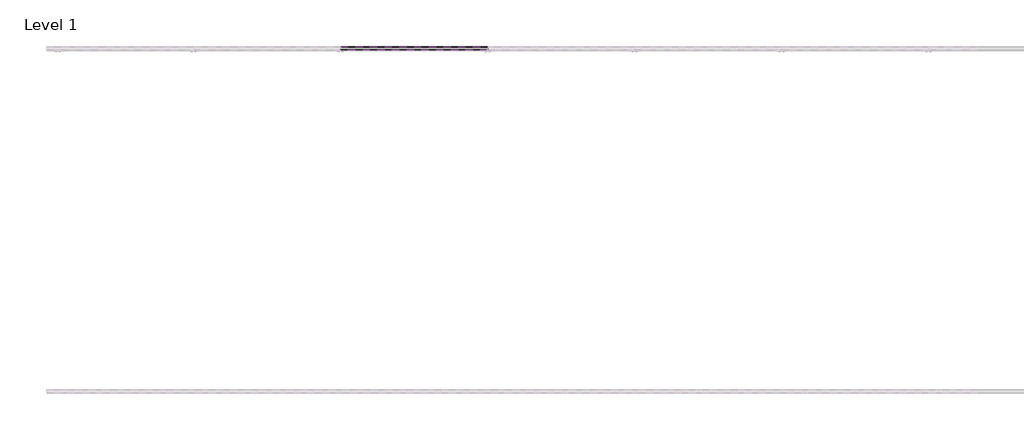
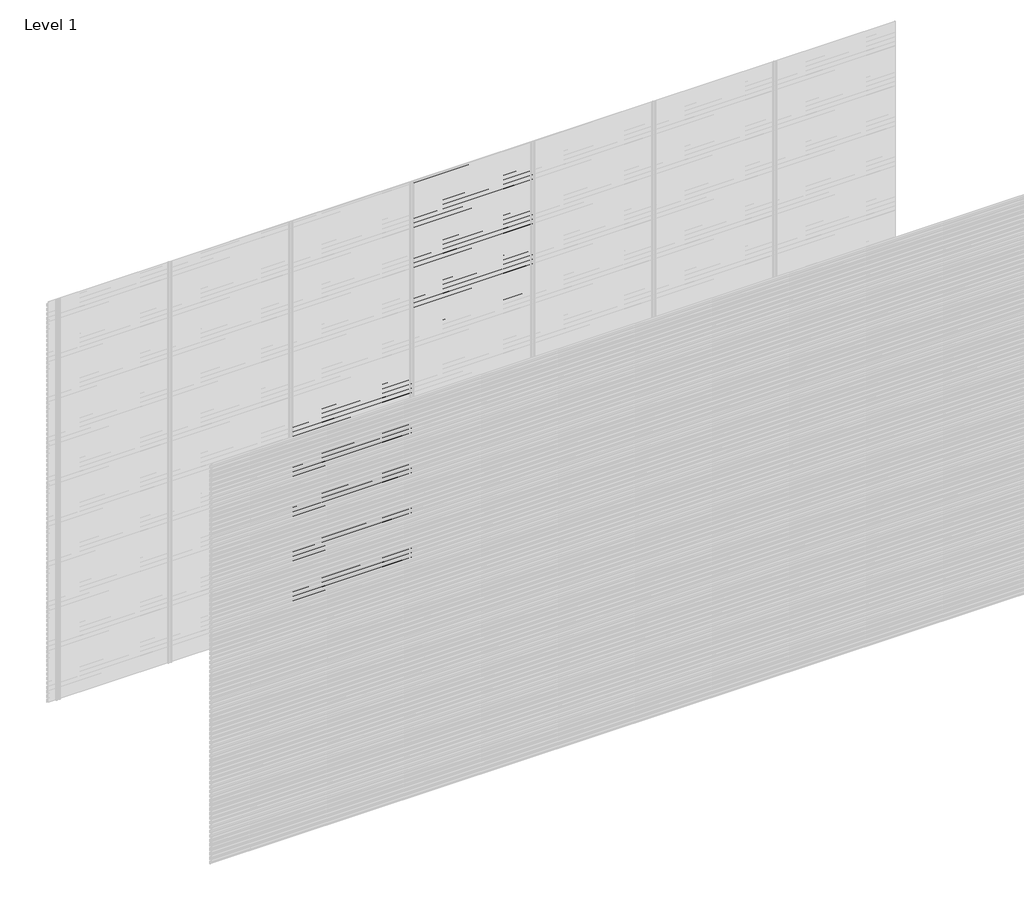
# One storey, part 92 of 96: 82 proxies.
"""IFC4 building model written with IfcOpenShell, lengths in millimetres."""

from ifc_helpers import new_model, si_unit, frame, origin, place, context, project, spatial, polyline, outline, extrude, element, save

model = new_model("IFC4")

# Units and contexts
model_context = context("Model", 3, world=origin())
ifc_project = project(units=[si_unit("LENGTHUNIT", "METRE", prefix="MILLI")], contexts=[model_context])

# Site, building, storey
site = spatial("IfcSite", under=ifc_project)
building = spatial("IfcBuilding", under=site)
storey = spatial("IfcBuildingStorey", under=building, Name="Level 1", Elevation=0.0)

# Proxies
placement = place(None, origin())
element("IfcBuildingElementProxy", 1, Name="Wall Sweeps", at=placement, inside=storey, context=model_context, shape_type="SweptSolid", body=[
    extrude(outline(polyline([(22.4, 1573.1655033), (22.4, 1558.8779188), (17.5885035, 1556.1), (17.5885035, 1557.3701706), (21.15, 1559.4264016), (21.15, 1572.4437382), (2.0, 1583.5000799), (2.0, 1598.4), (3.25, 1598.4), (3.25, 1584.2217609), (22.4, 1573.1655033)])), frame((1714.2857143, 0.0, 0.0), z_axis=(1.0, 0.0, 0.0), x_axis=(0.0, 1.0, 0.0)), (0.0, 0.0, 1.0), 857.1428571),
])
element("IfcBuildingElementProxy", 2, Name="Wall Sweeps", at=placement, inside=storey, context=model_context, shape_type="SweptSolid", body=[
    extrude(outline(polyline([(22.4, 1539.8655033), (22.4, 1525.5779188), (17.5885035, 1522.8), (17.5885035, 1524.0701706), (21.15, 1526.1264016), (21.15, 1539.1437382), (2.0, 1550.2000799), (2.0, 1565.1), (3.25, 1565.1), (3.25, 1550.9217609), (22.4, 1539.8655033)])), frame((1714.2857143, 0.0, 0.0), z_axis=(1.0, 0.0, 0.0), x_axis=(0.0, 1.0, 0.0)), (0.0, 0.0, 1.0), 857.1428571),
])
element("IfcBuildingElementProxy", 3, Name="Wall Sweeps", at=placement, inside=storey, context=model_context, shape_type="SweptSolid", body=[
    extrude(outline(polyline([(22.4, 1506.5655033), (22.4, 1492.2779188), (17.5885035, 1489.5), (17.5885035, 1490.7701706), (21.15, 1492.8264016), (21.15, 1505.8437382), (2.0, 1516.9000799), (2.0, 1531.8), (3.25, 1531.8), (3.25, 1517.6217609), (22.4, 1506.5655033)])), frame((1714.2857143, 0.0, 0.0), z_axis=(1.0, 0.0, 0.0), x_axis=(0.0, 1.0, 0.0)), (0.0, 0.0, 1.0), 857.1428571),
])
element("IfcBuildingElementProxy", 4, Name="Wall Sweeps", at=placement, inside=storey, context=model_context, shape_type="SweptSolid", body=[
    extrude(outline(polyline([(22.4, 1473.2655033), (22.4, 1458.9779188), (17.5885035, 1456.2), (17.5885035, 1457.4701706), (21.15, 1459.5264016), (21.15, 1472.5437382), (2.0, 1483.6000799), (2.0, 1498.5), (3.25, 1498.5), (3.25, 1484.3217609), (22.4, 1473.2655033)])), frame((1714.2857143, 0.0, 0.0), z_axis=(1.0, 0.0, 0.0), x_axis=(0.0, 1.0, 0.0)), (0.0, 0.0, 1.0), 857.1428571),
])
element("IfcBuildingElementProxy", 5, Name="Wall Sweeps", at=placement, inside=storey, context=model_context, shape_type="SweptSolid", body=[
    extrude(outline(polyline([(22.4, 1439.9655033), (22.4, 1425.6779188), (17.5885035, 1422.9), (17.5885035, 1424.1701706), (21.15, 1426.2264016), (21.15, 1439.2437382), (2.0, 1450.3000799), (2.0, 1465.2), (3.25, 1465.2), (3.25, 1451.0217609), (22.4, 1439.9655033)])), frame((1714.2857143, 0.0, 0.0), z_axis=(1.0, 0.0, 0.0), x_axis=(0.0, 1.0, 0.0)), (0.0, 0.0, 1.0), 857.1428571),
])
element("IfcBuildingElementProxy", 6, Name="Wall Sweeps", at=placement, inside=storey, context=model_context, shape_type="SweptSolid", body=[
    extrude(outline(polyline([(22.4, 1406.6655033), (22.4, 1392.3779188), (17.5885035, 1389.6), (17.5885035, 1390.8701706), (21.15, 1392.9264016), (21.15, 1405.9437382), (2.0, 1417.0000799), (2.0, 1431.9), (3.25, 1431.9), (3.25, 1417.7217609), (22.4, 1406.6655033)])), frame((1714.2857143, 0.0, 0.0), z_axis=(1.0, 0.0, 0.0), x_axis=(0.0, 1.0, 0.0)), (0.0, 0.0, 1.0), 857.1428571),
])
element("IfcBuildingElementProxy", 7, Name="Wall Sweeps", at=placement, inside=storey, context=model_context, shape_type="SweptSolid", body=[
    extrude(outline(polyline([(22.4, 1373.3655033), (22.4, 1359.0779188), (17.5885035, 1356.3), (17.5885035, 1357.5701706), (21.15, 1359.6264016), (21.15, 1372.6437382), (2.0, 1383.7000799), (2.0, 1398.6), (3.25, 1398.6), (3.25, 1384.4217609), (22.4, 1373.3655033)])), frame((1714.2857143, 0.0, 0.0), z_axis=(1.0, 0.0, 0.0), x_axis=(0.0, 1.0, 0.0)), (0.0, 0.0, 1.0), 857.1428571),
])
element("IfcBuildingElementProxy", 8, Name="Wall Sweeps", at=placement, inside=storey, context=model_context, shape_type="SweptSolid", body=[
    extrude(outline(polyline([(22.4, 1340.0655033), (22.4, 1325.7779188), (17.5885035, 1323.0), (17.5885035, 1324.2701706), (21.15, 1326.3264016), (21.15, 1339.3437382), (2.0, 1350.4000799), (2.0, 1365.3), (3.25, 1365.3), (3.25, 1351.1217609), (22.4, 1340.0655033)])), frame((1714.2857143, 0.0, 0.0), z_axis=(1.0, 0.0, 0.0), x_axis=(0.0, 1.0, 0.0)), (0.0, 0.0, 1.0), 857.1428571),
])
element("IfcBuildingElementProxy", 9, Name="Wall Sweeps", at=placement, inside=storey, context=model_context, shape_type="SweptSolid", body=[
    extrude(outline(polyline([(22.4, 1306.7655033), (22.4, 1292.4779188), (17.5885035, 1289.7), (17.5885035, 1290.9701706), (21.15, 1293.0264016), (21.15, 1306.0437382), (2.0, 1317.1000799), (2.0, 1332.0), (3.25, 1332.0), (3.25, 1317.8217609), (22.4, 1306.7655033)])), frame((1714.2857143, 0.0, 0.0), z_axis=(1.0, 0.0, 0.0), x_axis=(0.0, 1.0, 0.0)), (0.0, 0.0, 1.0), 857.1428571),
])
element("IfcBuildingElementProxy", 10, Name="Wall Sweeps", at=placement, inside=storey, context=model_context, shape_type="SweptSolid", body=[
    extrude(outline(polyline([(22.4, 1273.4655033), (22.4, 1259.1779188), (17.5885035, 1256.4), (17.5885035, 1257.6701706), (21.15, 1259.7264016), (21.15, 1272.7437382), (2.0, 1283.8000799), (2.0, 1298.7), (3.25, 1298.7), (3.25, 1284.5217609), (22.4, 1273.4655033)])), frame((1714.2857143, 0.0, 0.0), z_axis=(1.0, 0.0, 0.0), x_axis=(0.0, 1.0, 0.0)), (0.0, 0.0, 1.0), 857.1428571),
])
element("IfcBuildingElementProxy", 11, Name="Wall Sweeps", at=placement, inside=storey, context=model_context, shape_type="SweptSolid", body=[
    extrude(outline(polyline([(22.4, 1240.1655033), (22.4, 1225.8779188), (17.5885035, 1223.1), (17.5885035, 1224.3701706), (21.15, 1226.4264016), (21.15, 1239.4437382), (2.0, 1250.5000799), (2.0, 1265.4), (3.25, 1265.4), (3.25, 1251.2217609), (22.4, 1240.1655033)])), frame((1714.2857143, 0.0, 0.0), z_axis=(1.0, 0.0, 0.0), x_axis=(0.0, 1.0, 0.0)), (0.0, 0.0, 1.0), 857.1428571),
])
element("IfcBuildingElementProxy", 12, Name="Wall Sweeps", at=placement, inside=storey, context=model_context, shape_type="SweptSolid", body=[
    extrude(outline(polyline([(22.4, 1206.8655033), (22.4, 1192.5779188), (17.5885035, 1189.8), (17.5885035, 1191.0701706), (21.15, 1193.1264016), (21.15, 1206.1437382), (2.0, 1217.2000799), (2.0, 1232.1), (3.25, 1232.1), (3.25, 1217.9217609), (22.4, 1206.8655033)])), frame((1714.2857143, 0.0, 0.0), z_axis=(1.0, 0.0, 0.0), x_axis=(0.0, 1.0, 0.0)), (0.0, 0.0, 1.0), 857.1428571),
])
element("IfcBuildingElementProxy", 13, Name="Wall Sweeps", at=placement, inside=storey, context=model_context, shape_type="SweptSolid", body=[
    extrude(outline(polyline([(22.4, 1173.5655033), (22.4, 1159.2779188), (17.5885035, 1156.5), (17.5885035, 1157.7701706), (21.15, 1159.8264016), (21.15, 1172.8437382), (2.0, 1183.9000799), (2.0, 1198.8), (3.25, 1198.8), (3.25, 1184.6217609), (22.4, 1173.5655033)])), frame((1714.2857143, 0.0, 0.0), z_axis=(1.0, 0.0, 0.0), x_axis=(0.0, 1.0, 0.0)), (0.0, 0.0, 1.0), 857.1428571),
])
element("IfcBuildingElementProxy", 14, Name="Wall Sweeps", at=placement, inside=storey, context=model_context, shape_type="SweptSolid", body=[
    extrude(outline(polyline([(22.4, 1140.2655033), (22.4, 1125.9779188), (17.5885035, 1123.2), (17.5885035, 1124.4701706), (21.15, 1126.5264016), (21.15, 1139.5437382), (2.0, 1150.6000799), (2.0, 1165.5), (3.25, 1165.5), (3.25, 1151.3217609), (22.4, 1140.2655033)])), frame((1714.2857143, 0.0, 0.0), z_axis=(1.0, 0.0, 0.0), x_axis=(0.0, 1.0, 0.0)), (0.0, 0.0, 1.0), 857.1428571),
])
element("IfcBuildingElementProxy", 15, Name="Wall Sweeps", at=placement, inside=storey, context=model_context, shape_type="SweptSolid", body=[
    extrude(outline(polyline([(22.4, 1106.9655033), (22.4, 1092.6779188), (17.5885035, 1089.9), (17.5885035, 1091.1701706), (21.15, 1093.2264016), (21.15, 1106.2437382), (2.0, 1117.3000799), (2.0, 1132.2), (3.25, 1132.2), (3.25, 1118.0217609), (22.4, 1106.9655033)])), frame((1714.2857143, 0.0, 0.0), z_axis=(1.0, 0.0, 0.0), x_axis=(0.0, 1.0, 0.0)), (0.0, 0.0, 1.0), 857.1428571),
])
element("IfcBuildingElementProxy", 16, Name="Wall Sweeps", at=placement, inside=storey, context=model_context, shape_type="SweptSolid", body=[
    extrude(outline(polyline([(22.4, 1073.6655033), (22.4, 1059.3779188), (17.5885035, 1056.6), (17.5885035, 1057.8701706), (21.15, 1059.9264016), (21.15, 1072.9437382), (2.0, 1084.0000799), (2.0, 1098.9), (3.25, 1098.9), (3.25, 1084.7217609), (22.4, 1073.6655033)])), frame((1714.2857143, 0.0, 0.0), z_axis=(1.0, 0.0, 0.0), x_axis=(0.0, 1.0, 0.0)), (0.0, 0.0, 1.0), 857.1428571),
])
element("IfcBuildingElementProxy", 17, Name="Wall Sweeps", at=placement, inside=storey, context=model_context, shape_type="SweptSolid", body=[
    extrude(outline(polyline([(22.4, 1040.3655033), (22.4, 1026.0779188), (17.5885035, 1023.3), (17.5885035, 1024.5701706), (21.15, 1026.6264016), (21.15, 1039.6437382), (2.0, 1050.7000799), (2.0, 1065.6), (3.25, 1065.6), (3.25, 1051.4217609), (22.4, 1040.3655033)])), frame((1714.2857143, 0.0, 0.0), z_axis=(1.0, 0.0, 0.0), x_axis=(0.0, 1.0, 0.0)), (0.0, 0.0, 1.0), 857.1428571),
])
element("IfcBuildingElementProxy", 18, Name="Wall Sweeps", at=placement, inside=storey, context=model_context, shape_type="SweptSolid", body=[
    extrude(outline(polyline([(22.4, 1007.0655033), (22.4, 992.7779188), (17.5885035, 990.0), (17.5885035, 991.2701706), (21.15, 993.3264016), (21.15, 1006.3437382), (2.0, 1017.4000799), (2.0, 1032.3), (3.25, 1032.3), (3.25, 1018.1217609), (22.4, 1007.0655033)])), frame((1714.2857143, 0.0, 0.0), z_axis=(1.0, 0.0, 0.0), x_axis=(0.0, 1.0, 0.0)), (0.0, 0.0, 1.0), 857.1428571),
])
element("IfcBuildingElementProxy", 19, Name="Wall Sweeps", at=placement, inside=storey, context=model_context, shape_type="SweptSolid", body=[
    extrude(outline(polyline([(22.4, 973.7655033), (22.4, 959.4779188), (17.5885035, 956.7), (17.5885035, 957.9701706), (21.15, 960.0264016), (21.15, 973.0437382), (2.0, 984.1000799), (2.0, 999.0), (3.25, 999.0), (3.25, 984.8217609), (22.4, 973.7655033)])), frame((1714.2857143, 0.0, 0.0), z_axis=(1.0, 0.0, 0.0), x_axis=(0.0, 1.0, 0.0)), (0.0, 0.0, 1.0), 857.1428571),
])
element("IfcBuildingElementProxy", 20, Name="Wall Sweeps", at=placement, inside=storey, context=model_context, shape_type="SweptSolid", body=[
    extrude(outline(polyline([(22.4, 940.4655033), (22.4, 926.1779188), (17.5885035, 923.4), (17.5885035, 924.6701706), (21.15, 926.7264016), (21.15, 939.7437382), (2.0, 950.8000799), (2.0, 965.7), (3.25, 965.7), (3.25, 951.5217609), (22.4, 940.4655033)])), frame((1714.2857143, 0.0, 0.0), z_axis=(1.0, 0.0, 0.0), x_axis=(0.0, 1.0, 0.0)), (0.0, 0.0, 1.0), 857.1428571),
])
element("IfcBuildingElementProxy", 21, Name="Wall Sweeps", at=placement, inside=storey, context=model_context, shape_type="SweptSolid", body=[
    extrude(outline(polyline([(22.4, 907.1655033), (22.4, 892.8779188), (17.5885035, 890.1), (17.5885035, 891.3701706), (21.15, 893.4264016), (21.15, 906.4437382), (2.0, 917.5000799), (2.0, 932.4), (3.25, 932.4), (3.25, 918.2217609), (22.4, 907.1655033)])), frame((1714.2857143, 0.0, 0.0), z_axis=(1.0, 0.0, 0.0), x_axis=(0.0, 1.0, 0.0)), (0.0, 0.0, 1.0), 857.1428571),
])
element("IfcBuildingElementProxy", 22, Name="Wall Sweeps", at=placement, inside=storey, context=model_context, shape_type="SweptSolid", body=[
    extrude(outline(polyline([(22.4, 873.8655033), (22.4, 859.5779188), (17.5885035, 856.8), (17.5885035, 858.0701706), (21.15, 860.1264016), (21.15, 873.1437382), (2.0, 884.2000799), (2.0, 899.1), (3.25, 899.1), (3.25, 884.9217609), (22.4, 873.8655033)])), frame((1714.2857143, 0.0, 0.0), z_axis=(1.0, 0.0, 0.0), x_axis=(0.0, 1.0, 0.0)), (0.0, 0.0, 1.0), 857.1428571),
])
element("IfcBuildingElementProxy", 23, Name="Wall Sweeps", at=placement, inside=storey, context=model_context, shape_type="SweptSolid", body=[
    extrude(outline(polyline([(22.4, 840.5655033), (22.4, 826.2779188), (17.5885035, 823.5), (17.5885035, 824.7701706), (21.15, 826.8264016), (21.15, 839.8437382), (2.0, 850.9000799), (2.0, 865.8), (3.25, 865.8), (3.25, 851.6217609), (22.4, 840.5655033)])), frame((1714.2857143, 0.0, 0.0), z_axis=(1.0, 0.0, 0.0), x_axis=(0.0, 1.0, 0.0)), (0.0, 0.0, 1.0), 857.1428571),
])
element("IfcBuildingElementProxy", 24, Name="Wall Sweeps", at=placement, inside=storey, context=model_context, shape_type="SweptSolid", body=[
    extrude(outline(polyline([(22.4, 807.2655033), (22.4, 792.9779188), (17.5885035, 790.2), (17.5885035, 791.4701706), (21.15, 793.5264016), (21.15, 806.5437382), (2.0, 817.6000799), (2.0, 832.5), (3.25, 832.5), (3.25, 818.3217609), (22.4, 807.2655033)])), frame((1714.2857143, 0.0, 0.0), z_axis=(1.0, 0.0, 0.0), x_axis=(0.0, 1.0, 0.0)), (0.0, 0.0, 1.0), 857.1428571),
])
element("IfcBuildingElementProxy", 25, Name="Wall Sweeps", at=placement, inside=storey, context=model_context, shape_type="SweptSolid", body=[
    extrude(outline(polyline([(22.4, 773.9655033), (22.4, 759.6779188), (17.5885035, 756.9), (17.5885035, 758.1701706), (21.15, 760.2264016), (21.15, 773.2437382), (2.0, 784.3000799), (2.0, 799.2), (3.25, 799.2), (3.25, 785.0217609), (22.4, 773.9655033)])), frame((1714.2857143, 0.0, 0.0), z_axis=(1.0, 0.0, 0.0), x_axis=(0.0, 1.0, 0.0)), (0.0, 0.0, 1.0), 857.1428571),
])
element("IfcBuildingElementProxy", 26, Name="Wall Sweeps", at=placement, inside=storey, context=model_context, shape_type="SweptSolid", body=[
    extrude(outline(polyline([(22.4, 740.6655033), (22.4, 726.3779188), (17.5885035, 723.6), (17.5885035, 724.8701706), (21.15, 726.9264016), (21.15, 739.9437382), (2.0, 751.0000799), (2.0, 765.9), (3.25, 765.9), (3.25, 751.7217609), (22.4, 740.6655033)])), frame((1714.2857143, 0.0, 0.0), z_axis=(1.0, 0.0, 0.0), x_axis=(0.0, 1.0, 0.0)), (0.0, 0.0, 1.0), 857.1428571),
])
element("IfcBuildingElementProxy", 27, Name="Wall Sweeps", at=placement, inside=storey, context=model_context, shape_type="SweptSolid", body=[
    extrude(outline(polyline([(22.4, 707.3655033), (22.4, 693.0779188), (17.5885035, 690.3), (17.5885035, 691.5701706), (21.15, 693.6264016), (21.15, 706.6437382), (2.0, 717.7000799), (2.0, 732.6), (3.25, 732.6), (3.25, 718.4217609), (22.4, 707.3655033)])), frame((1714.2857143, 0.0, 0.0), z_axis=(1.0, 0.0, 0.0), x_axis=(0.0, 1.0, 0.0)), (0.0, 0.0, 1.0), 857.1428571),
])
element("IfcBuildingElementProxy", 28, Name="Wall Sweeps", at=placement, inside=storey, context=model_context, shape_type="SweptSolid", body=[
    extrude(outline(polyline([(22.4, 674.0655033), (22.4, 659.7779188), (17.5885035, 657.0), (17.5885035, 658.2701706), (21.15, 660.3264016), (21.15, 673.3437382), (2.0, 684.4000799), (2.0, 699.3), (3.25, 699.3), (3.25, 685.1217609), (22.4, 674.0655033)])), frame((1714.2857143, 0.0, 0.0), z_axis=(1.0, 0.0, 0.0), x_axis=(0.0, 1.0, 0.0)), (0.0, 0.0, 1.0), 857.1428571),
])
element("IfcBuildingElementProxy", 29, Name="Wall Sweeps", at=placement, inside=storey, context=model_context, shape_type="SweptSolid", body=[
    extrude(outline(polyline([(22.4, 640.7655033), (22.4, 626.4779188), (17.5885035, 623.7), (17.5885035, 624.9701706), (21.15, 627.0264016), (21.15, 640.0437382), (2.0, 651.1000799), (2.0, 666.0), (3.25, 666.0), (3.25, 651.8217609), (22.4, 640.7655033)])), frame((1714.2857143, 0.0, 0.0), z_axis=(1.0, 0.0, 0.0), x_axis=(0.0, 1.0, 0.0)), (0.0, 0.0, 1.0), 857.1428571),
])
element("IfcBuildingElementProxy", 30, Name="Wall Sweeps", at=placement, inside=storey, context=model_context, shape_type="SweptSolid", body=[
    extrude(outline(polyline([(22.4, 607.4655033), (22.4, 593.1779188), (17.5885035, 590.4), (17.5885035, 591.6701706), (21.15, 593.7264016), (21.15, 606.7437382), (2.0, 617.8000799), (2.0, 632.7), (3.25, 632.7), (3.25, 618.5217609), (22.4, 607.4655033)])), frame((1714.2857143, 0.0, 0.0), z_axis=(1.0, 0.0, 0.0), x_axis=(0.0, 1.0, 0.0)), (0.0, 0.0, 1.0), 857.1428571),
])
element("IfcBuildingElementProxy", 31, Name="Wall Sweeps", at=placement, inside=storey, context=model_context, shape_type="SweptSolid", body=[
    extrude(outline(polyline([(22.4, 574.1655033), (22.4, 559.8779188), (17.5885035, 557.1), (17.5885035, 558.3701706), (21.15, 560.4264016), (21.15, 573.4437382), (2.0, 584.5000799), (2.0, 599.4), (3.25, 599.4), (3.25, 585.2217609), (22.4, 574.1655033)])), frame((1714.2857143, 0.0, 0.0), z_axis=(1.0, 0.0, 0.0), x_axis=(0.0, 1.0, 0.0)), (0.0, 0.0, 1.0), 857.1428571),
])
element("IfcBuildingElementProxy", 32, Name="Wall Sweeps", at=placement, inside=storey, context=model_context, shape_type="SweptSolid", body=[
    extrude(outline(polyline([(22.4, 540.8655033), (22.4, 526.5779188), (17.5885035, 523.8), (17.5885035, 525.0701706), (21.15, 527.1264016), (21.15, 540.1437382), (2.0, 551.2000799), (2.0, 566.1), (3.25, 566.1), (3.25, 551.9217609), (22.4, 540.8655033)])), frame((1714.2857143, 0.0, 0.0), z_axis=(1.0, 0.0, 0.0), x_axis=(0.0, 1.0, 0.0)), (0.0, 0.0, 1.0), 857.1428571),
])
element("IfcBuildingElementProxy", 33, Name="Wall Sweeps", at=placement, inside=storey, context=model_context, shape_type="SweptSolid", body=[
    extrude(outline(polyline([(22.4, 507.5655033), (22.4, 493.2779188), (17.5885035, 490.5), (17.5885035, 491.7701706), (21.15, 493.8264016), (21.15, 506.8437382), (2.0, 517.9000799), (2.0, 532.8), (3.25, 532.8), (3.25, 518.6217609), (22.4, 507.5655033)])), frame((1714.2857143, 0.0, 0.0), z_axis=(1.0, 0.0, 0.0), x_axis=(0.0, 1.0, 0.0)), (0.0, 0.0, 1.0), 857.1428571),
])
element("IfcBuildingElementProxy", 34, Name="Wall Sweeps", at=placement, inside=storey, context=model_context, shape_type="SweptSolid", body=[
    extrude(outline(polyline([(22.4, 474.2655033), (22.4, 459.9779188), (17.5885035, 457.2), (17.5885035, 458.4701706), (21.15, 460.5264016), (21.15, 473.5437382), (2.0, 484.6000799), (2.0, 499.5), (3.25, 499.5), (3.25, 485.3217609), (22.4, 474.2655033)])), frame((1714.2857143, 0.0, 0.0), z_axis=(1.0, 0.0, 0.0), x_axis=(0.0, 1.0, 0.0)), (0.0, 0.0, 1.0), 857.1428571),
])
element("IfcBuildingElementProxy", 35, Name="Wall Sweeps", at=placement, inside=storey, context=model_context, shape_type="SweptSolid", body=[
    extrude(outline(polyline([(22.4, 440.9655033), (22.4, 426.6779188), (17.5885035, 423.9), (17.5885035, 425.1701706), (21.15, 427.2264016), (21.15, 440.2437382), (2.0, 451.3000799), (2.0, 466.2), (3.25, 466.2), (3.25, 452.0217609), (22.4, 440.9655033)])), frame((1714.2857143, 0.0, 0.0), z_axis=(1.0, 0.0, 0.0), x_axis=(0.0, 1.0, 0.0)), (0.0, 0.0, 1.0), 857.1428571),
])
element("IfcBuildingElementProxy", 36, Name="Wall Sweeps", at=placement, inside=storey, context=model_context, shape_type="SweptSolid", body=[
    extrude(outline(polyline([(22.4, 407.6655033), (22.4, 393.3779188), (17.5885035, 390.6), (17.5885035, 391.8701706), (21.15, 393.9264016), (21.15, 406.9437382), (2.0, 418.0000799), (2.0, 432.9), (3.25, 432.9), (3.25, 418.7217609), (22.4, 407.6655033)])), frame((1714.2857143, 0.0, 0.0), z_axis=(1.0, 0.0, 0.0), x_axis=(0.0, 1.0, 0.0)), (0.0, 0.0, 1.0), 857.1428571),
])
element("IfcBuildingElementProxy", 37, Name="Wall Sweeps", at=placement, inside=storey, context=model_context, shape_type="SweptSolid", body=[
    extrude(outline(polyline([(22.4, 374.3655033), (22.4, 360.0779188), (17.5885035, 357.3), (17.5885035, 358.5701706), (21.15, 360.6264016), (21.15, 373.6437382), (2.0, 384.7000799), (2.0, 399.6), (3.25, 399.6), (3.25, 385.4217609), (22.4, 374.3655033)])), frame((1714.2857143, 0.0, 0.0), z_axis=(1.0, 0.0, 0.0), x_axis=(0.0, 1.0, 0.0)), (0.0, 0.0, 1.0), 857.1428571),
])
element("IfcBuildingElementProxy", 38, Name="Wall Sweeps", at=placement, inside=storey, context=model_context, shape_type="SweptSolid", body=[
    extrude(outline(polyline([(22.4, 341.0655033), (22.4, 326.7779188), (17.5885035, 324.0), (17.5885035, 325.2701706), (21.15, 327.3264016), (21.15, 340.3437382), (2.0, 351.4000799), (2.0, 366.3), (3.25, 366.3), (3.25, 352.1217609), (22.4, 341.0655033)])), frame((1714.2857143, 0.0, 0.0), z_axis=(1.0, 0.0, 0.0), x_axis=(0.0, 1.0, 0.0)), (0.0, 0.0, 1.0), 857.1428571),
])
element("IfcBuildingElementProxy", 39, Name="Wall Sweeps", at=placement, inside=storey, context=model_context, shape_type="SweptSolid", body=[
    extrude(outline(polyline([(22.4, 307.7655033), (22.4, 293.4779188), (17.5885035, 290.7), (17.5885035, 291.9701706), (21.15, 294.0264016), (21.15, 307.0437382), (2.0, 318.1000799), (2.0, 333.0), (3.25, 333.0), (3.25, 318.8217609), (22.4, 307.7655033)])), frame((1714.2857143, 0.0, 0.0), z_axis=(1.0, 0.0, 0.0), x_axis=(0.0, 1.0, 0.0)), (0.0, 0.0, 1.0), 857.1428571),
])
element("IfcBuildingElementProxy", 40, Name="Wall Sweeps", at=placement, inside=storey, context=model_context, shape_type="SweptSolid", body=[
    extrude(outline(polyline([(22.4, 274.4655033), (22.4, 260.1779188), (17.5885035, 257.4), (17.5885035, 258.6701706), (21.15, 260.7264016), (21.15, 273.7437382), (2.0, 284.8000799), (2.0, 299.7), (3.25, 299.7), (3.25, 285.5217609), (22.4, 274.4655033)])), frame((1714.2857143, 0.0, 0.0), z_axis=(1.0, 0.0, 0.0), x_axis=(0.0, 1.0, 0.0)), (0.0, 0.0, 1.0), 857.1428571),
])
element("IfcBuildingElementProxy", 41, Name="Wall Sweeps", at=placement, inside=storey, context=model_context, shape_type="SweptSolid", body=[
    extrude(outline(polyline([(22.4, 241.1655033), (22.4, 226.8779188), (17.5885035, 224.1), (17.5885035, 225.3701706), (21.15, 227.4264016), (21.15, 240.4437382), (2.0, 251.5000799), (2.0, 266.4), (3.25, 266.4), (3.25, 252.2217609), (22.4, 241.1655033)])), frame((1714.2857143, 0.0, 0.0), z_axis=(1.0, 0.0, 0.0), x_axis=(0.0, 1.0, 0.0)), (0.0, 0.0, 1.0), 857.1428571),
])
element("IfcBuildingElementProxy", 42, Name="Wall Sweeps", at=placement, inside=storey, context=model_context, shape_type="SweptSolid", body=[
    extrude(outline(polyline([(22.4, 207.8655033), (22.4, 193.5779188), (17.5885035, 190.8), (17.5885035, 192.0701706), (21.15, 194.1264016), (21.15, 207.1437382), (2.0, 218.2000799), (2.0, 233.1), (3.25, 233.1), (3.25, 218.9217609), (22.4, 207.8655033)])), frame((1714.2857143, 0.0, 0.0), z_axis=(1.0, 0.0, 0.0), x_axis=(0.0, 1.0, 0.0)), (0.0, 0.0, 1.0), 857.1428571),
])
element("IfcBuildingElementProxy", 43, Name="Wall Sweeps", at=placement, inside=storey, context=model_context, shape_type="SweptSolid", body=[
    extrude(outline(polyline([(22.4, 174.5655033), (22.4, 160.2779188), (17.5885035, 157.5), (17.5885035, 158.7701706), (21.15, 160.8264016), (21.15, 173.8437382), (2.0, 184.9000799), (2.0, 199.8), (3.25, 199.8), (3.25, 185.6217609), (22.4, 174.5655033)])), frame((1714.2857143, 0.0, 0.0), z_axis=(1.0, 0.0, 0.0), x_axis=(0.0, 1.0, 0.0)), (0.0, 0.0, 1.0), 857.1428571),
])
element("IfcBuildingElementProxy", 44, Name="Wall Sweeps", at=placement, inside=storey, context=model_context, shape_type="SweptSolid", body=[
    extrude(outline(polyline([(22.4, 141.2655033), (22.4, 126.9779188), (17.5885035, 124.2), (17.5885035, 125.4701706), (21.15, 127.5264016), (21.15, 140.5437382), (2.0, 151.6000799), (2.0, 166.5), (3.25, 166.5), (3.25, 152.3217609), (22.4, 141.2655033)])), frame((1714.2857143, 0.0, 0.0), z_axis=(1.0, 0.0, 0.0), x_axis=(0.0, 1.0, 0.0)), (0.0, 0.0, 1.0), 857.1428571),
])
element("IfcBuildingElementProxy", 45, Name="Wall Sweeps", at=placement, inside=storey, context=model_context, shape_type="SweptSolid", body=[
    extrude(outline(polyline([(22.4, 107.9655033), (22.4, 93.6779188), (17.5885035, 90.9), (17.5885035, 92.1701706), (21.15, 94.2264016), (21.15, 107.2437382), (2.0, 118.3000799), (2.0, 133.2), (3.25, 133.2), (3.25, 119.0217609), (22.4, 107.9655033)])), frame((1714.2857143, 0.0, 0.0), z_axis=(1.0, 0.0, 0.0), x_axis=(0.0, 1.0, 0.0)), (0.0, 0.0, 1.0), 857.1428571),
])
element("IfcBuildingElementProxy", 46, Name="Wall Sweeps", at=placement, inside=storey, context=model_context, shape_type="SweptSolid", body=[
    extrude(outline(polyline([(22.4, 74.6655033), (22.4, 60.3779188), (17.5885035, 57.6), (17.5885035, 58.8701706), (21.15, 60.9264016), (21.15, 73.9437382), (2.0, 85.0000799), (2.0, 99.9), (3.25, 99.9), (3.25, 85.7217609), (22.4, 74.6655033)])), frame((1714.2857143, 0.0, 0.0), z_axis=(1.0, 0.0, 0.0), x_axis=(0.0, 1.0, 0.0)), (0.0, 0.0, 1.0), 857.1428571),
])
element("IfcBuildingElementProxy", 47, Name="Wall Sweeps", at=placement, inside=storey, context=model_context, shape_type="SweptSolid", body=[
    extrude(outline(polyline([(22.4, 41.3655033), (22.4, 27.0779188), (17.5885035, 24.3), (17.5885035, 25.5701706), (21.15, 27.6264016), (21.15, 40.6437382), (2.0, 51.7000799), (2.0, 66.6), (3.25, 66.6), (3.25, 52.4217609), (22.4, 41.3655033)])), frame((1714.2857143, 0.0, 0.0), z_axis=(1.0, 0.0, 0.0), x_axis=(0.0, 1.0, 0.0)), (0.0, 0.0, 1.0), 857.1428571),
])
element("IfcBuildingElementProxy", 48, Name="Wall Sweeps", at=placement, inside=storey, context=model_context, shape_type="SweptSolid", body=[
    extrude(outline(polyline([(22.4, 8.0655033), (22.4, -6.2220812), (17.5885035, -9.0), (17.5885035, -7.7298294), (21.15, -5.6735984), (21.15, 7.3437382), (2.0, 18.4000799), (2.0, 33.3), (3.25, 33.3), (3.25, 19.1217609), (22.4, 8.0655033)])), frame((1714.2857143, 0.0, 0.0), z_axis=(1.0, 0.0, 0.0), x_axis=(0.0, 1.0, 0.0)), (0.0, 0.0, 1.0), 857.1428571),
])
element("IfcBuildingElementProxy", 49, Name="Wall Sweeps", at=placement, inside=storey, context=model_context, shape_type="SweptSolid", body=[
    extrude(outline(polyline([(22.4, 2971.7655033), (22.4, 2957.4779188), (17.5885035, 2954.7), (17.5885035, 2955.9701706), (21.15, 2958.0264016), (21.15, 2971.0437382), (2.0, 2982.1000799), (2.0, 2997.0), (3.25, 2997.0), (3.25, 2982.8217609), (22.4, 2971.7655033)])), frame((2571.4285714, 0.0, 0.0), z_axis=(1.0, 0.0, 0.0), x_axis=(0.0, 1.0, 0.0)), (0.0, 0.0, 1.0), 857.1428571),
])
element("IfcBuildingElementProxy", 50, Name="Wall Sweeps", at=placement, inside=storey, context=model_context, shape_type="SweptSolid", body=[
    extrude(outline(polyline([(22.4, 2938.4655033), (22.4, 2924.1779188), (17.5885035, 2921.4), (17.5885035, 2922.6701706), (21.15, 2924.7264016), (21.15, 2937.7437382), (2.0, 2948.8000799), (2.0, 2963.7), (3.25, 2963.7), (3.25, 2949.5217609), (22.4, 2938.4655033)])), frame((2571.4285714, 0.0, 0.0), z_axis=(1.0, 0.0, 0.0), x_axis=(0.0, 1.0, 0.0)), (0.0, 0.0, 1.0), 857.1428571),
])
element("IfcBuildingElementProxy", 51, Name="Wall Sweeps", at=placement, inside=storey, context=model_context, shape_type="SweptSolid", body=[
    extrude(outline(polyline([(22.4, 2905.1655033), (22.4, 2890.8779188), (17.5885035, 2888.1), (17.5885035, 2889.3701706), (21.15, 2891.4264016), (21.15, 2904.4437382), (2.0, 2915.5000799), (2.0, 2930.4), (3.25, 2930.4), (3.25, 2916.2217609), (22.4, 2905.1655033)])), frame((2571.4285714, 0.0, 0.0), z_axis=(1.0, 0.0, 0.0), x_axis=(0.0, 1.0, 0.0)), (0.0, 0.0, 1.0), 857.1428571),
])
element("IfcBuildingElementProxy", 52, Name="Wall Sweeps", at=placement, inside=storey, context=model_context, shape_type="SweptSolid", body=[
    extrude(outline(polyline([(22.4, 2871.8655033), (22.4, 2857.5779188), (17.5885035, 2854.8), (17.5885035, 2856.0701706), (21.15, 2858.1264016), (21.15, 2871.1437382), (2.0, 2882.2000799), (2.0, 2897.1), (3.25, 2897.1), (3.25, 2882.9217609), (22.4, 2871.8655033)])), frame((2571.4285714, 0.0, 0.0), z_axis=(1.0, 0.0, 0.0), x_axis=(0.0, 1.0, 0.0)), (0.0, 0.0, 1.0), 857.1428571),
])
element("IfcBuildingElementProxy", 53, Name="Wall Sweeps", at=placement, inside=storey, context=model_context, shape_type="SweptSolid", body=[
    extrude(outline(polyline([(22.4, 2838.5655033), (22.4, 2824.2779188), (17.5885035, 2821.5), (17.5885035, 2822.7701706), (21.15, 2824.8264016), (21.15, 2837.8437382), (2.0, 2848.9000799), (2.0, 2863.8), (3.25, 2863.8), (3.25, 2849.6217609), (22.4, 2838.5655033)])), frame((2571.4285714, 0.0, 0.0), z_axis=(1.0, 0.0, 0.0), x_axis=(0.0, 1.0, 0.0)), (0.0, 0.0, 1.0), 857.1428571),
])
element("IfcBuildingElementProxy", 54, Name="Wall Sweeps", at=placement, inside=storey, context=model_context, shape_type="SweptSolid", body=[
    extrude(outline(polyline([(22.4, 2805.2655033), (22.4, 2790.9779188), (17.5885035, 2788.2), (17.5885035, 2789.4701706), (21.15, 2791.5264016), (21.15, 2804.5437382), (2.0, 2815.6000799), (2.0, 2830.5), (3.25, 2830.5), (3.25, 2816.3217609), (22.4, 2805.2655033)])), frame((2571.4285714, 0.0, 0.0), z_axis=(1.0, 0.0, 0.0), x_axis=(0.0, 1.0, 0.0)), (0.0, 0.0, 1.0), 857.1428571),
])
element("IfcBuildingElementProxy", 55, Name="Wall Sweeps", at=placement, inside=storey, context=model_context, shape_type="SweptSolid", body=[
    extrude(outline(polyline([(22.4, 2771.9655033), (22.4, 2757.6779188), (17.5885035, 2754.9), (17.5885035, 2756.1701706), (21.15, 2758.2264016), (21.15, 2771.2437382), (2.0, 2782.3000799), (2.0, 2797.2), (3.25, 2797.2), (3.25, 2783.0217609), (22.4, 2771.9655033)])), frame((2571.4285714, 0.0, 0.0), z_axis=(1.0, 0.0, 0.0), x_axis=(0.0, 1.0, 0.0)), (0.0, 0.0, 1.0), 857.1428571),
])
element("IfcBuildingElementProxy", 56, Name="Wall Sweeps", at=placement, inside=storey, context=model_context, shape_type="SweptSolid", body=[
    extrude(outline(polyline([(22.4, 2738.6655033), (22.4, 2724.3779188), (17.5885035, 2721.6), (17.5885035, 2722.8701706), (21.15, 2724.9264016), (21.15, 2737.9437382), (2.0, 2749.0000799), (2.0, 2763.9), (3.25, 2763.9), (3.25, 2749.7217609), (22.4, 2738.6655033)])), frame((2571.4285714, 0.0, 0.0), z_axis=(1.0, 0.0, 0.0), x_axis=(0.0, 1.0, 0.0)), (0.0, 0.0, 1.0), 857.1428571),
])
element("IfcBuildingElementProxy", 57, Name="Wall Sweeps", at=placement, inside=storey, context=model_context, shape_type="SweptSolid", body=[
    extrude(outline(polyline([(22.4, 2705.3655033), (22.4, 2691.0779188), (17.5885035, 2688.3), (17.5885035, 2689.5701706), (21.15, 2691.6264016), (21.15, 2704.6437382), (2.0, 2715.7000799), (2.0, 2730.6), (3.25, 2730.6), (3.25, 2716.4217609), (22.4, 2705.3655033)])), frame((2571.4285714, 0.0, 0.0), z_axis=(1.0, 0.0, 0.0), x_axis=(0.0, 1.0, 0.0)), (0.0, 0.0, 1.0), 857.1428571),
])
element("IfcBuildingElementProxy", 58, Name="Wall Sweeps", at=placement, inside=storey, context=model_context, shape_type="SweptSolid", body=[
    extrude(outline(polyline([(22.4, 2672.0655033), (22.4, 2657.7779188), (17.5885035, 2655.0), (17.5885035, 2656.2701706), (21.15, 2658.3264016), (21.15, 2671.3437382), (2.0, 2682.4000799), (2.0, 2697.3), (3.25, 2697.3), (3.25, 2683.1217609), (22.4, 2672.0655033)])), frame((2571.4285714, 0.0, 0.0), z_axis=(1.0, 0.0, 0.0), x_axis=(0.0, 1.0, 0.0)), (0.0, 0.0, 1.0), 857.1428571),
])
element("IfcBuildingElementProxy", 59, Name="Wall Sweeps", at=placement, inside=storey, context=model_context, shape_type="SweptSolid", body=[
    extrude(outline(polyline([(22.4, 2638.7655033), (22.4, 2624.4779188), (17.5885035, 2621.7), (17.5885035, 2622.9701706), (21.15, 2625.0264016), (21.15, 2638.0437382), (2.0, 2649.1000799), (2.0, 2664.0), (3.25, 2664.0), (3.25, 2649.8217609), (22.4, 2638.7655033)])), frame((2571.4285714, 0.0, 0.0), z_axis=(1.0, 0.0, 0.0), x_axis=(0.0, 1.0, 0.0)), (0.0, 0.0, 1.0), 857.1428571),
])
element("IfcBuildingElementProxy", 60, Name="Wall Sweeps", at=placement, inside=storey, context=model_context, shape_type="SweptSolid", body=[
    extrude(outline(polyline([(22.4, 2605.4655033), (22.4, 2591.1779188), (17.5885035, 2588.4), (17.5885035, 2589.6701706), (21.15, 2591.7264016), (21.15, 2604.7437382), (2.0, 2615.8000799), (2.0, 2630.7), (3.25, 2630.7), (3.25, 2616.5217609), (22.4, 2605.4655033)])), frame((2571.4285714, 0.0, 0.0), z_axis=(1.0, 0.0, 0.0), x_axis=(0.0, 1.0, 0.0)), (0.0, 0.0, 1.0), 857.1428571),
])
element("IfcBuildingElementProxy", 61, Name="Wall Sweeps", at=placement, inside=storey, context=model_context, shape_type="SweptSolid", body=[
    extrude(outline(polyline([(22.4, 2572.1655033), (22.4, 2557.8779188), (17.5885035, 2555.1), (17.5885035, 2556.3701706), (21.15, 2558.4264016), (21.15, 2571.4437382), (2.0, 2582.5000799), (2.0, 2597.4), (3.25, 2597.4), (3.25, 2583.2217609), (22.4, 2572.1655033)])), frame((2571.4285714, 0.0, 0.0), z_axis=(1.0, 0.0, 0.0), x_axis=(0.0, 1.0, 0.0)), (0.0, 0.0, 1.0), 857.1428571),
])
element("IfcBuildingElementProxy", 62, Name="Wall Sweeps", at=placement, inside=storey, context=model_context, shape_type="SweptSolid", body=[
    extrude(outline(polyline([(22.4, 2538.8655033), (22.4, 2524.5779188), (17.5885035, 2521.8), (17.5885035, 2523.0701706), (21.15, 2525.1264016), (21.15, 2538.1437382), (2.0, 2549.2000799), (2.0, 2564.1), (3.25, 2564.1), (3.25, 2549.9217609), (22.4, 2538.8655033)])), frame((2571.4285714, 0.0, 0.0), z_axis=(1.0, 0.0, 0.0), x_axis=(0.0, 1.0, 0.0)), (0.0, 0.0, 1.0), 857.1428571),
])
element("IfcBuildingElementProxy", 63, Name="Wall Sweeps", at=placement, inside=storey, context=model_context, shape_type="SweptSolid", body=[
    extrude(outline(polyline([(22.4, 2505.5655033), (22.4, 2491.2779188), (17.5885035, 2488.5), (17.5885035, 2489.7701706), (21.15, 2491.8264016), (21.15, 2504.8437382), (2.0, 2515.9000799), (2.0, 2530.8), (3.25, 2530.8), (3.25, 2516.6217609), (22.4, 2505.5655033)])), frame((2571.4285714, 0.0, 0.0), z_axis=(1.0, 0.0, 0.0), x_axis=(0.0, 1.0, 0.0)), (0.0, 0.0, 1.0), 857.1428571),
])
element("IfcBuildingElementProxy", 64, Name="Wall Sweeps", at=placement, inside=storey, context=model_context, shape_type="SweptSolid", body=[
    extrude(outline(polyline([(22.4, 2472.2655033), (22.4, 2457.9779188), (17.5885035, 2455.2), (17.5885035, 2456.4701706), (21.15, 2458.5264016), (21.15, 2471.5437382), (2.0, 2482.6000799), (2.0, 2497.5), (3.25, 2497.5), (3.25, 2483.3217609), (22.4, 2472.2655033)])), frame((2571.4285714, 0.0, 0.0), z_axis=(1.0, 0.0, 0.0), x_axis=(0.0, 1.0, 0.0)), (0.0, 0.0, 1.0), 857.1428571),
])
element("IfcBuildingElementProxy", 65, Name="Wall Sweeps", at=placement, inside=storey, context=model_context, shape_type="SweptSolid", body=[
    extrude(outline(polyline([(22.4, 2438.9655033), (22.4, 2424.6779188), (17.5885035, 2421.9), (17.5885035, 2423.1701706), (21.15, 2425.2264016), (21.15, 2438.2437382), (2.0, 2449.3000799), (2.0, 2464.2), (3.25, 2464.2), (3.25, 2450.0217609), (22.4, 2438.9655033)])), frame((2571.4285714, 0.0, 0.0), z_axis=(1.0, 0.0, 0.0), x_axis=(0.0, 1.0, 0.0)), (0.0, 0.0, 1.0), 857.1428571),
])
element("IfcBuildingElementProxy", 66, Name="Wall Sweeps", at=placement, inside=storey, context=model_context, shape_type="SweptSolid", body=[
    extrude(outline(polyline([(22.4, 2405.6655033), (22.4, 2391.3779188), (17.5885035, 2388.6), (17.5885035, 2389.8701706), (21.15, 2391.9264016), (21.15, 2404.9437382), (2.0, 2416.0000799), (2.0, 2430.9), (3.25, 2430.9), (3.25, 2416.7217609), (22.4, 2405.6655033)])), frame((2571.4285714, 0.0, 0.0), z_axis=(1.0, 0.0, 0.0), x_axis=(0.0, 1.0, 0.0)), (0.0, 0.0, 1.0), 857.1428571),
])
element("IfcBuildingElementProxy", 67, Name="Wall Sweeps", at=placement, inside=storey, context=model_context, shape_type="SweptSolid", body=[
    extrude(outline(polyline([(22.4, 2372.3655033), (22.4, 2358.0779188), (17.5885035, 2355.3), (17.5885035, 2356.5701706), (21.15, 2358.6264016), (21.15, 2371.6437382), (2.0, 2382.7000799), (2.0, 2397.6), (3.25, 2397.6), (3.25, 2383.4217609), (22.4, 2372.3655033)])), frame((2571.4285714, 0.0, 0.0), z_axis=(1.0, 0.0, 0.0), x_axis=(0.0, 1.0, 0.0)), (0.0, 0.0, 1.0), 857.1428571),
])
element("IfcBuildingElementProxy", 68, Name="Wall Sweeps", at=placement, inside=storey, context=model_context, shape_type="SweptSolid", body=[
    extrude(outline(polyline([(22.4, 2339.0655033), (22.4, 2324.7779188), (17.5885035, 2322.0), (17.5885035, 2323.2701706), (21.15, 2325.3264016), (21.15, 2338.3437382), (2.0, 2349.4000799), (2.0, 2364.3), (3.25, 2364.3), (3.25, 2350.1217609), (22.4, 2339.0655033)])), frame((2571.4285714, 0.0, 0.0), z_axis=(1.0, 0.0, 0.0), x_axis=(0.0, 1.0, 0.0)), (0.0, 0.0, 1.0), 857.1428571),
])
element("IfcBuildingElementProxy", 69, Name="Wall Sweeps", at=placement, inside=storey, context=model_context, shape_type="SweptSolid", body=[
    extrude(outline(polyline([(22.4, 2305.7655033), (22.4, 2291.4779188), (17.5885035, 2288.7), (17.5885035, 2289.9701706), (21.15, 2292.0264016), (21.15, 2305.0437382), (2.0, 2316.1000799), (2.0, 2331.0), (3.25, 2331.0), (3.25, 2316.8217609), (22.4, 2305.7655033)])), frame((2571.4285714, 0.0, 0.0), z_axis=(1.0, 0.0, 0.0), x_axis=(0.0, 1.0, 0.0)), (0.0, 0.0, 1.0), 857.1428571),
])
element("IfcBuildingElementProxy", 70, Name="Wall Sweeps", at=placement, inside=storey, context=model_context, shape_type="SweptSolid", body=[
    extrude(outline(polyline([(22.4, 2272.4655033), (22.4, 2258.1779188), (17.5885035, 2255.4), (17.5885035, 2256.6701706), (21.15, 2258.7264016), (21.15, 2271.7437382), (2.0, 2282.8000799), (2.0, 2297.7), (3.25, 2297.7), (3.25, 2283.5217609), (22.4, 2272.4655033)])), frame((2571.4285714, 0.0, 0.0), z_axis=(1.0, 0.0, 0.0), x_axis=(0.0, 1.0, 0.0)), (0.0, 0.0, 1.0), 857.1428571),
])
element("IfcBuildingElementProxy", 71, Name="Wall Sweeps", at=placement, inside=storey, context=model_context, shape_type="SweptSolid", body=[
    extrude(outline(polyline([(22.4, 2239.1655033), (22.4, 2224.8779188), (17.5885035, 2222.1), (17.5885035, 2223.3701706), (21.15, 2225.4264016), (21.15, 2238.4437382), (2.0, 2249.5000799), (2.0, 2264.4), (3.25, 2264.4), (3.25, 2250.2217609), (22.4, 2239.1655033)])), frame((2571.4285714, 0.0, 0.0), z_axis=(1.0, 0.0, 0.0), x_axis=(0.0, 1.0, 0.0)), (0.0, 0.0, 1.0), 857.1428571),
])
element("IfcBuildingElementProxy", 72, Name="Wall Sweeps", at=placement, inside=storey, context=model_context, shape_type="SweptSolid", body=[
    extrude(outline(polyline([(22.4, 2205.8655033), (22.4, 2191.5779188), (17.5885035, 2188.8), (17.5885035, 2190.0701706), (21.15, 2192.1264016), (21.15, 2205.1437382), (2.0, 2216.2000799), (2.0, 2231.1), (3.25, 2231.1), (3.25, 2216.9217609), (22.4, 2205.8655033)])), frame((2571.4285714, 0.0, 0.0), z_axis=(1.0, 0.0, 0.0), x_axis=(0.0, 1.0, 0.0)), (0.0, 0.0, 1.0), 857.1428571),
])
element("IfcBuildingElementProxy", 73, Name="Wall Sweeps", at=placement, inside=storey, context=model_context, shape_type="SweptSolid", body=[
    extrude(outline(polyline([(22.4, 2172.5655033), (22.4, 2158.2779188), (17.5885035, 2155.5), (17.5885035, 2156.7701706), (21.15, 2158.8264016), (21.15, 2171.8437382), (2.0, 2182.9000799), (2.0, 2197.8), (3.25, 2197.8), (3.25, 2183.6217609), (22.4, 2172.5655033)])), frame((2571.4285714, 0.0, 0.0), z_axis=(1.0, 0.0, 0.0), x_axis=(0.0, 1.0, 0.0)), (0.0, 0.0, 1.0), 857.1428571),
])
element("IfcBuildingElementProxy", 74, Name="Wall Sweeps", at=placement, inside=storey, context=model_context, shape_type="SweptSolid", body=[
    extrude(outline(polyline([(22.4, 2139.2655033), (22.4, 2124.9779188), (17.5885035, 2122.2), (17.5885035, 2123.4701706), (21.15, 2125.5264016), (21.15, 2138.5437382), (2.0, 2149.6000799), (2.0, 2164.5), (3.25, 2164.5), (3.25, 2150.3217609), (22.4, 2139.2655033)])), frame((2571.4285714, 0.0, 0.0), z_axis=(1.0, 0.0, 0.0), x_axis=(0.0, 1.0, 0.0)), (0.0, 0.0, 1.0), 857.1428571),
])
element("IfcBuildingElementProxy", 75, Name="Wall Sweeps", at=placement, inside=storey, context=model_context, shape_type="SweptSolid", body=[
    extrude(outline(polyline([(22.4, 2105.9655033), (22.4, 2091.6779188), (17.5885035, 2088.9), (17.5885035, 2090.1701706), (21.15, 2092.2264016), (21.15, 2105.2437382), (2.0, 2116.3000799), (2.0, 2131.2), (3.25, 2131.2), (3.25, 2117.0217609), (22.4, 2105.9655033)])), frame((2571.4285714, 0.0, 0.0), z_axis=(1.0, 0.0, 0.0), x_axis=(0.0, 1.0, 0.0)), (0.0, 0.0, 1.0), 857.1428571),
])
element("IfcBuildingElementProxy", 76, Name="Wall Sweeps", at=placement, inside=storey, context=model_context, shape_type="SweptSolid", body=[
    extrude(outline(polyline([(22.4, 2072.6655033), (22.4, 2058.3779188), (17.5885035, 2055.6), (17.5885035, 2056.8701706), (21.15, 2058.9264016), (21.15, 2071.9437382), (2.0, 2083.0000799), (2.0, 2097.9), (3.25, 2097.9), (3.25, 2083.7217609), (22.4, 2072.6655033)])), frame((2571.4285714, 0.0, 0.0), z_axis=(1.0, 0.0, 0.0), x_axis=(0.0, 1.0, 0.0)), (0.0, 0.0, 1.0), 857.1428571),
])
element("IfcBuildingElementProxy", 77, Name="Wall Sweeps", at=placement, inside=storey, context=model_context, shape_type="SweptSolid", body=[
    extrude(outline(polyline([(22.4, 2039.3655033), (22.4, 2025.0779188), (17.5885035, 2022.3), (17.5885035, 2023.5701706), (21.15, 2025.6264016), (21.15, 2038.6437382), (2.0, 2049.7000799), (2.0, 2064.6), (3.25, 2064.6), (3.25, 2050.4217609), (22.4, 2039.3655033)])), frame((2571.4285714, 0.0, 0.0), z_axis=(1.0, 0.0, 0.0), x_axis=(0.0, 1.0, 0.0)), (0.0, 0.0, 1.0), 857.1428571),
])
element("IfcBuildingElementProxy", 78, Name="Wall Sweeps", at=placement, inside=storey, context=model_context, shape_type="SweptSolid", body=[
    extrude(outline(polyline([(22.4, 2006.0655033), (22.4, 1991.7779188), (17.5885035, 1989.0), (17.5885035, 1990.2701706), (21.15, 1992.3264016), (21.15, 2005.3437382), (2.0, 2016.4000799), (2.0, 2031.3), (3.25, 2031.3), (3.25, 2017.1217609), (22.4, 2006.0655033)])), frame((2571.4285714, 0.0, 0.0), z_axis=(1.0, 0.0, 0.0), x_axis=(0.0, 1.0, 0.0)), (0.0, 0.0, 1.0), 857.1428571),
])
element("IfcBuildingElementProxy", 79, Name="Wall Sweeps", at=placement, inside=storey, context=model_context, shape_type="SweptSolid", body=[
    extrude(outline(polyline([(22.4, 1972.7655033), (22.4, 1958.4779188), (17.5885035, 1955.7), (17.5885035, 1956.9701706), (21.15, 1959.0264016), (21.15, 1972.0437382), (2.0, 1983.1000799), (2.0, 1998.0), (3.25, 1998.0), (3.25, 1983.8217609), (22.4, 1972.7655033)])), frame((2571.4285714, 0.0, 0.0), z_axis=(1.0, 0.0, 0.0), x_axis=(0.0, 1.0, 0.0)), (0.0, 0.0, 1.0), 857.1428571),
])
element("IfcBuildingElementProxy", 80, Name="Wall Sweeps", at=placement, inside=storey, context=model_context, shape_type="SweptSolid", body=[
    extrude(outline(polyline([(22.4, 1939.4655033), (22.4, 1925.1779188), (17.5885035, 1922.4), (17.5885035, 1923.6701706), (21.15, 1925.7264016), (21.15, 1938.7437382), (2.0, 1949.8000799), (2.0, 1964.7), (3.25, 1964.7), (3.25, 1950.5217609), (22.4, 1939.4655033)])), frame((2571.4285714, 0.0, 0.0), z_axis=(1.0, 0.0, 0.0), x_axis=(0.0, 1.0, 0.0)), (0.0, 0.0, 1.0), 857.1428571),
])
element("IfcBuildingElementProxy", 81, Name="Wall Sweeps", at=placement, inside=storey, context=model_context, shape_type="SweptSolid", body=[
    extrude(outline(polyline([(22.4, 1906.1655033), (22.4, 1891.8779188), (17.5885035, 1889.1), (17.5885035, 1890.3701706), (21.15, 1892.4264016), (21.15, 1905.4437382), (2.0, 1916.5000799), (2.0, 1931.4), (3.25, 1931.4), (3.25, 1917.2217609), (22.4, 1906.1655033)])), frame((2571.4285714, 0.0, 0.0), z_axis=(1.0, 0.0, 0.0), x_axis=(0.0, 1.0, 0.0)), (0.0, 0.0, 1.0), 857.1428571),
])
element("IfcBuildingElementProxy", 82, Name="Wall Sweeps", at=placement, inside=storey, context=model_context, shape_type="SweptSolid", body=[
    extrude(outline(polyline([(22.4, 1872.8655033), (22.4, 1858.5779188), (17.5885035, 1855.8), (17.5885035, 1857.0701706), (21.15, 1859.1264016), (21.15, 1872.1437382), (2.0, 1883.2000799), (2.0, 1898.1), (3.25, 1898.1), (3.25, 1883.9217609), (22.4, 1872.8655033)])), frame((2571.4285714, 0.0, 0.0), z_axis=(1.0, 0.0, 0.0), x_axis=(0.0, 1.0, 0.0)), (0.0, 0.0, 1.0), 857.1428571),
])

save(model, "model.ifc")
